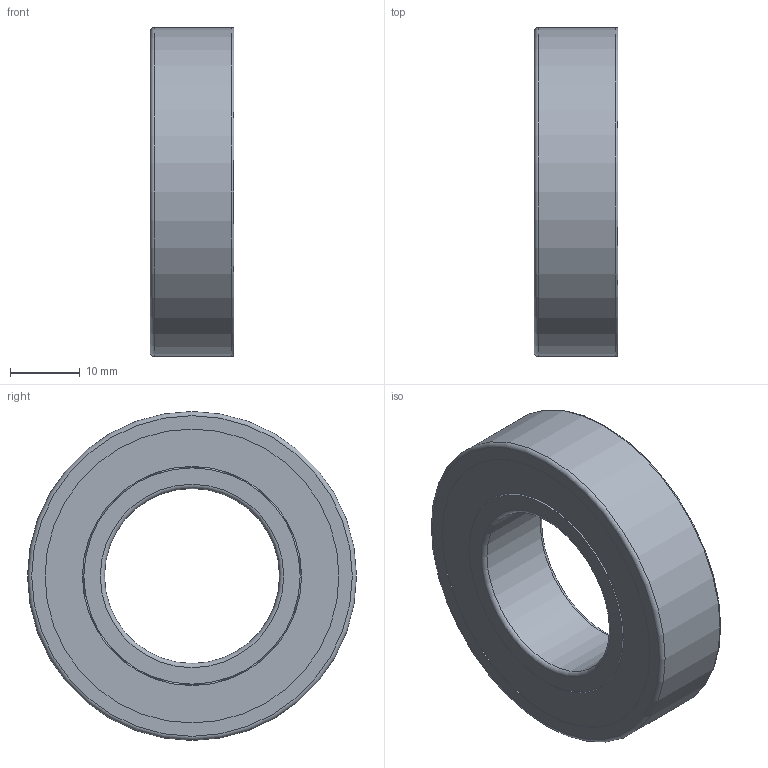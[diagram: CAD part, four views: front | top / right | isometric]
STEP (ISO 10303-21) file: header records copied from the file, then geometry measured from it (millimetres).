
FILE_DESCRIPTION(/* description */ (''),/* implementation_level */ '2;1');
FILE_NAME(/* name */ 'KH_6005_TA.step',/* time_stamp */ '2013-03-07T07:04:07+01:00',/* author */ ('Marian'),/* organization */ ('GMN'),/* preprocessor_version */ 'ST-DEVELOPER v11',/* originating_system */ 'SIEMENS UGS NX 6.0',/* authorisation */ '');
FILE_SCHEMA (('CONFIG_CONTROL_DESIGN'));
Length unit declared in the file: millimetre
Products named in the file (1): KH_6005_TA
Bounding box: 12 x 47 x 47 mm (x, y, z)
Volume: 11573.6 mm3; surface area: 13190.8 mm2
Topology: 22 solids, 22 shells, 66 faces, 158 edges, 102 vertices
Faces by surface type: cylinder 30, sphere 17, plane 12, torus 6, cone 1
Full cylindrical faces by diameter (mm): 5.756 x17, 25 x1, 30.9 x1, 31.3 x1, 32.2 x1, 32.6 x1, 35.576 x1, 38.952 x1, 39.352 x1, 42 x2, 43.6 x2, 47 x1
Entity records: 3360 total; most frequent: CARTESIAN_POINT 2154, DIRECTION 198, FACE_BOUND 149, EDGE_LOOP 132, ORIENTED_EDGE 132, AXIS2_PLACEMENT_3D 99, VERTEX_POINT 83, ADVANCED_FACE 66
